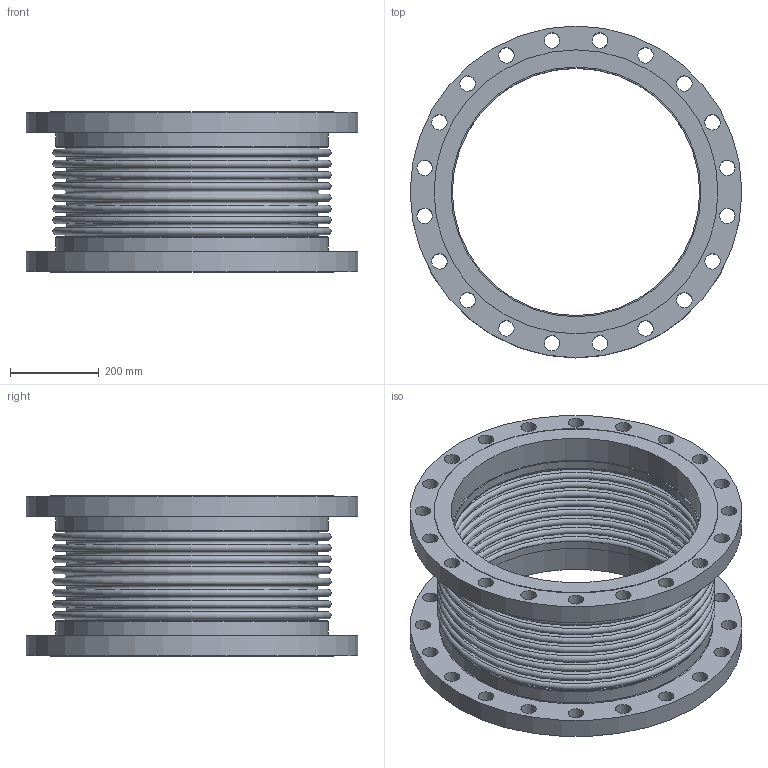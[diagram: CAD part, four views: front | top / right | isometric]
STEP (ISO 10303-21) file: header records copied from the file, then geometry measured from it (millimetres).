
FILE_DESCRIPTION(/* description */ ('EXPANSION JOINT,SINGLE, FLANGED ENDS,22 INCH','CAx-IF Rec.Pracs.---Representation and Presentation of Product Manufacturing Information (PMI)---4.0---2014-10-13'),/* implementation_level */ '2;1');
FILE_NAME(/* name */ 'US-22-8-300S-FLANGED ENDS.stp',/* time_stamp */ '2026-07-31T17:42:27-05:00',/* author */ ('Guadalupe'),/* organization */ (''),/* preprocessor_version */ 'ST-DEVELOPER v20.1',/* originating_system */ 'Autodesk Inventor 2026',/* authorisation */ '');
FILE_SCHEMA (('AP242_MANAGED_MODEL_BASED_3D_ENGINEERING_MIM_LF { 1 0 10303 442 2 1 4 }'));
Length unit declared in the file: inch
Products named in the file (3): 22-300S; 22-300S-02; 22-300S-01
Assembly tree (3 placements, depth 2):
  22-300S
    22-300S-02  x2
    22-300S-01
Bounding box: 749.3 x 749.3 x 362.2 mm (x, y, z)
Volume: 22449052.4 mm3; surface area: 4005750.8 mm2
Topology: 5 solids, 5 shells, 136 faces, 270 edges, 180 vertices
Faces by surface type: cylinder 52, plane 46, torus 38
Full cylindrical faces by diameter (mm): 34.925 x40, 558.8 x2, 564.388 x2, 564.896 x2, 615.95 x2, 641.35 x2, 749.3 x2
Entity records: 3026 total; most frequent: DIRECTION 606, CARTESIAN_POINT 449, ORIENTED_EDGE 384, AXIS2_PLACEMENT_3D 289, EDGE_CURVE 192, EDGE_LOOP 188, CIRCLE 164, VERTEX_POINT 128
